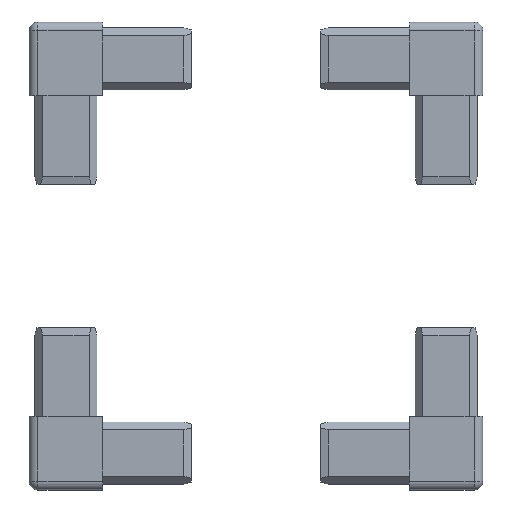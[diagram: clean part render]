
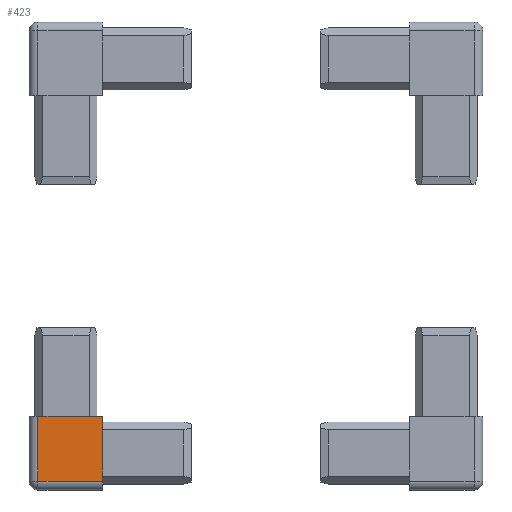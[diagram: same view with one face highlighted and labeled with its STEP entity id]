
A CAD part, left-side view. The second image highlights one B-rep face of the part: STEP entity #423.
In plain terms, the highlighted planar face has unit normal (-1, 0, 0).
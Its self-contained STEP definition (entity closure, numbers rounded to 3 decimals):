
#4 = CARTESIAN_POINT ( 'NONE',  ( -12.5, -12.5, 12.5 ) ) ;
#11 = DIRECTION ( 'NONE',  ( 0., 0., -1. ) ) ;
#40 = EDGE_CURVE ( 'NONE', #71, #1270, #724, .T. ) ;
#51 = AXIS2_PLACEMENT_3D ( 'NONE', #929, #1283, #111 ) ;
#71 = VERTEX_POINT ( 'NONE', #454 ) ;
#95 = EDGE_CURVE ( 'NONE', #1504, #669, #1299, .T. ) ;
#111 = DIRECTION ( 'NONE',  ( 0., 1., 0. ) ) ;
#192 = EDGE_CURVE ( 'NONE', #669, #1270, #970, .T. ) ;
#205 = ORIENTED_EDGE ( 'NONE', *, *, #192, .T. ) ;
#252 = DIRECTION ( 'NONE',  ( 0., -1., 0. ) ) ;
#337 = FACE_OUTER_BOUND ( 'NONE', #893, .T. ) ;
#351 = CARTESIAN_POINT ( 'NONE',  ( -12.5, -42.5, 12.5 ) ) ;
#378 = CARTESIAN_POINT ( 'NONE',  ( -12.5, 12.5, -9.5 ) ) ;
#423 = ADVANCED_FACE ( 'NONE', ( #337 ), #1034, .F. ) ;
#454 = CARTESIAN_POINT ( 'NONE',  ( -12.5, -12.5, 12.5 ) ) ;
#475 = LINE ( 'NONE', #351, #737 ) ;
#527 = CARTESIAN_POINT ( 'NONE',  ( -12.5, 9.5, 12.5 ) ) ;
#547 = CARTESIAN_POINT ( 'NONE',  ( -12.5, 9.5, -9.5 ) ) ;
#566 = VECTOR ( 'NONE', #252, 1000. ) ;
#582 = DIRECTION ( 'NONE',  ( 0., 0., -1. ) ) ;
#646 = ORIENTED_EDGE ( 'NONE', *, *, #95, .T. ) ;
#669 = VERTEX_POINT ( 'NONE', #547 ) ;
#724 = LINE ( 'NONE', #4, #818 ) ;
#737 = VECTOR ( 'NONE', #1313, 1000. ) ;
#743 = CARTESIAN_POINT ( 'NONE',  ( -12.5, -12.5, -9.5 ) ) ;
#796 = ORIENTED_EDGE ( 'NONE', *, *, #40, .F. ) ;
#818 = VECTOR ( 'NONE', #582, 1000. ) ;
#893 = EDGE_LOOP ( 'NONE', ( #646, #205, #796, #1143 ) ) ;
#929 = CARTESIAN_POINT ( 'NONE',  ( -12.5, 12.5, 42.5 ) ) ;
#970 = LINE ( 'NONE', #378, #566 ) ;
#1034 = PLANE ( 'NONE',  #51 ) ;
#1062 = CARTESIAN_POINT ( 'NONE',  ( -12.5, 9.5, 42.5 ) ) ;
#1143 = ORIENTED_EDGE ( 'NONE', *, *, #1241, .T. ) ;
#1241 = EDGE_CURVE ( 'NONE', #71, #1504, #475, .T. ) ;
#1270 = VERTEX_POINT ( 'NONE', #743 ) ;
#1283 = DIRECTION ( 'NONE',  ( 1., 0., 0. ) ) ;
#1299 = LINE ( 'NONE', #1062, #1386 ) ;
#1313 = DIRECTION ( 'NONE',  ( 0., 1., 0. ) ) ;
#1386 = VECTOR ( 'NONE', #11, 1000. ) ;
#1504 = VERTEX_POINT ( 'NONE', #527 ) ;
